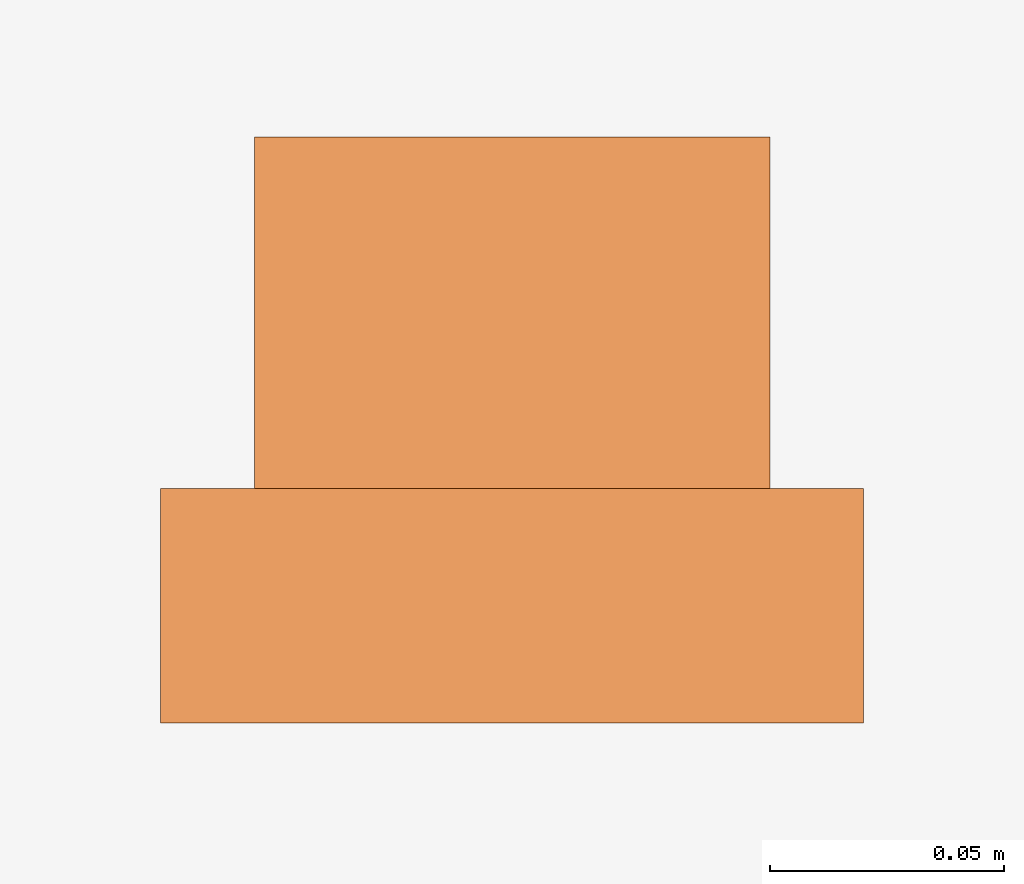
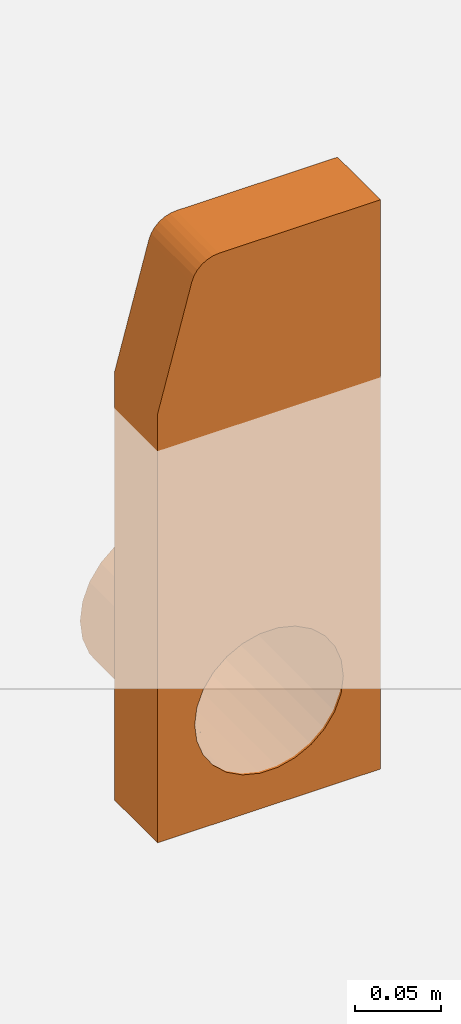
# One storey, part 2 of 2: 1 proxy.
"""IFC2X3 building model written with IfcOpenShell, lengths in millimetres."""

from ifc_helpers import new_model, entity, si_unit, converted_unit, direction, frame, frame_2d, origin, origin_2d_with_axis, place, context, subcontext, project, spatial, polyline, circle_curve, parameter, trimmed, segment, composite_curve, outline, extrude, source, transform, mapped, material, material_list, element, save


model = new_model("IFC2X3")

# Units and contexts
model_context = context("Model", 3, precision=1e-06, world=origin(), true_north=direction((2.0, 6.12303176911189e-17, 1.0)))
context_of_model = context(None, 3, precision=1e-06, world=origin(), true_north=direction((2.0, 6.12303176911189e-17, 1.0)))
body_context = subcontext(model_context, "Body", "Model", "MODEL_VIEW")
ifc_project = project(units=[si_unit("LENGTHUNIT", "METRE", prefix="MILLI"), si_unit("AREAUNIT", "SQUARE_METRE", prefix="MILLI"), si_unit("VOLUMEUNIT", "CUBIC_METRE", prefix="MILLI"), converted_unit("PLANEANGLEUNIT", "DEGREE", entity("IfcRatioMeasure", 0.0174532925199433), si_unit("PLANEANGLEUNIT", "RADIAN"), dimensions=[0, 0, 0, 0, 0, 0, 0]), si_unit("TIMEUNIT", "SECOND")], contexts=[model_context, context_of_model])

# Site, building, storey
site_placement = place(None, origin())
site = spatial("IfcSite", under=ifc_project, at=site_placement, Name="Default", CompositionType="ELEMENT")
building_placement = place(site_placement, origin())
building = spatial("IfcBuilding", under=site, at=building_placement, CompositionType="ELEMENT")
storey_placement = place(building_placement, origin())
storey = spatial("IfcBuildingStorey", under=building, at=storey_placement, Name="Level 1", CompositionType="ELEMENT", Elevation=0.0)

# Proxy
ifc_material_1 = material(Name="Orange")
ifc_material_2 = material(Name="ACO Polymer Concrete.")
ifc_material_list = material_list([ifc_material_1, ifc_material_2])
shared_shape = source(origin(), body_context, "Body", "SweptSolid", [
    extrude(outline(composite_curve([segment(trimmed(circle_curve(origin_2d_with_axis(), 55.0), [parameter(0.0)], [parameter(180.0)], True, "PARAMETER"), True, "CONTINUOUS"), segment(trimmed(circle_curve(origin_2d_with_axis(), 55.0), [parameter(180.0)], [parameter(360.0)], True, "PARAMETER"), True, "CONTINUOUS")], self_intersect=False), holes=[composite_curve([segment(trimmed(circle_curve(origin_2d_with_axis(), 49.9999999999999), [parameter(180.0)], [parameter(359.999999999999)], True, "PARAMETER"), False, "CONTINUOUS"), segment(trimmed(circle_curve(origin_2d_with_axis(), 50.0000000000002), [parameter(359.999999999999)], [parameter(180.0)], True, "PARAMETER"), False, "CONTINUOUS")], self_intersect=False)]), frame((0.0204036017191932, 50.0, -204.965697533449), z_axis=(0.0, 1.0, 0.0), x_axis=(-1.0, 0.0, 0.0)), (0.0, 0.0, 1.0), 75.0),
    extrude(outline(composite_curve([segment(polyline([(36.4545094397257, -72.6429831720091), (125.402914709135, -72.6429831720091)]), True, "CONTINUOUS"), segment(trimmed(circle_curve(frame_2d((125.402914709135, -53.642983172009), x_axis=(-0.25881904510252, -0.965925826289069)), 19.0), [parameter(15.0000000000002)], [parameter(90.0000000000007)], True, "PARAMETER"), True, "CONTINUOUS"), segment(polyline([(143.755505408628, -58.5605450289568), (171.869948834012, 46.3639862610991)]), True, "CONTINUOUS"), segment(polyline([(171.869948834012, 46.3639862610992), (-219.330010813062, 151.185699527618)]), True, "CONTINUOUS"), segment(polyline([(-219.330010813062, 151.185699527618), (-258.152867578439, 6.29682558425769)]), True, "CONTINUOUS"), segment(polyline([(-258.152867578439, 6.29682558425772), (36.4545094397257, -72.6429831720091)]), True, "CONTINUOUS")], self_intersect=False), holes=[composite_curve([segment(trimmed(circle_curve(frame_2d((-166.269149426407, 59.3012476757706), x_axis=(0.25881904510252, 0.965925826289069)), 50.0000000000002), [parameter(180.0)], [parameter(7.63333123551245e-13)], True, "PARAMETER"), False, "CONTINUOUS"), segment(trimmed(circle_curve(frame_2d((-166.269149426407, 59.3012476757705), x_axis=(0.25881904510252, 0.965925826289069)), 49.9999999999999), [parameter(8.65110873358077e-13)], [parameter(179.999999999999)], True, "PARAMETER"), False, "CONTINUOUS")], self_intersect=False)]), frame((-14.2673877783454, 0.0, -29.0137396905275), z_axis=(0.0, 1.0, 0.0), x_axis=(0.258819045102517, 0.0, 0.965925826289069)), (0.0, 0.0, 1.0), 50.0),
])
proxy_placement = place(storey_placement, frame((-14541.5994818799, -705.326112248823, 0.0)))
element("IfcBuildingElementProxy", 1, at=proxy_placement, inside=storey, material=ifc_material_list, Name="Civil-Drainage-Channel-ACO-KerbDrain-HB405:4237 - LH inlet/outlet end cap:4237 - LH inlet/outlet end cap", ObjectType="4237 - LH inlet/outlet end cap", CompositionType="ELEMENT", context=body_context, shape_type="MappedRepresentation", body=[
    mapped(shared_shape, transform((0.0, 0.0, 0.0), scale=1.0)),
])

save(model, "model.ifc")
